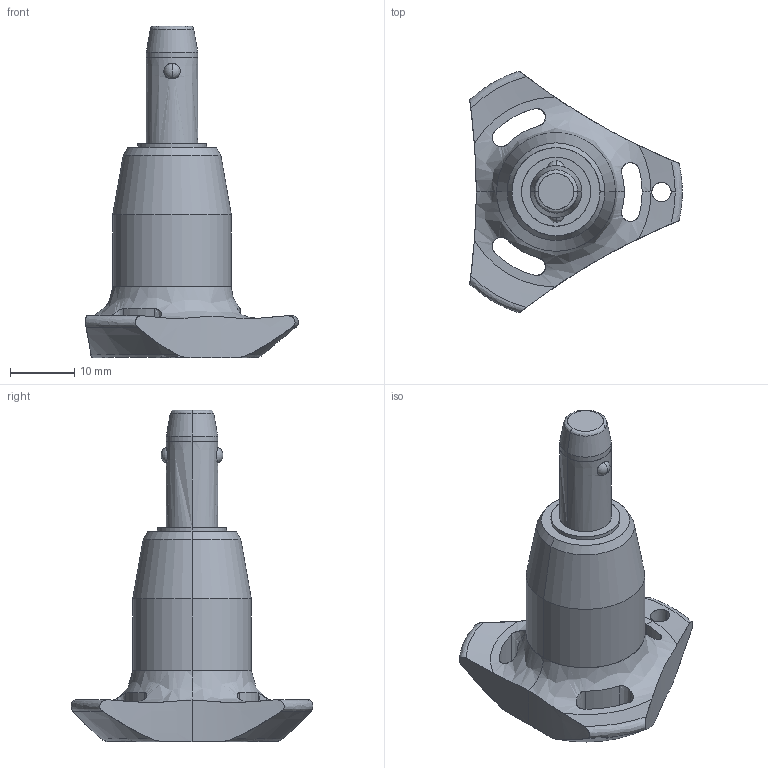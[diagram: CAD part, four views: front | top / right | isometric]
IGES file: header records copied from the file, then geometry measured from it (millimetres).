
Start section: SolidWorks IGES file using analytic representation for surfaces
Global section: file name: C:\Users\ianosborn\Desktop\QR1736_v2\QR1736_v2_20251115_IGES\QR1736.M08-010-T.igs; native system: SolidWorks 2019; preprocessor: SolidWorks 2019; author: IanOsborn; date: 251113.115319; units: millimetre
Bounding box: 33 x 37.51 x 51.5 mm (x, y, z)
Surface area: 4235.3 mm2 (no closed solid volume)
Topology: 0 solids, 0 shells, 68 faces, 1344 edges, 1337 vertices
Faces by surface type: revolution 52, bspline 16
